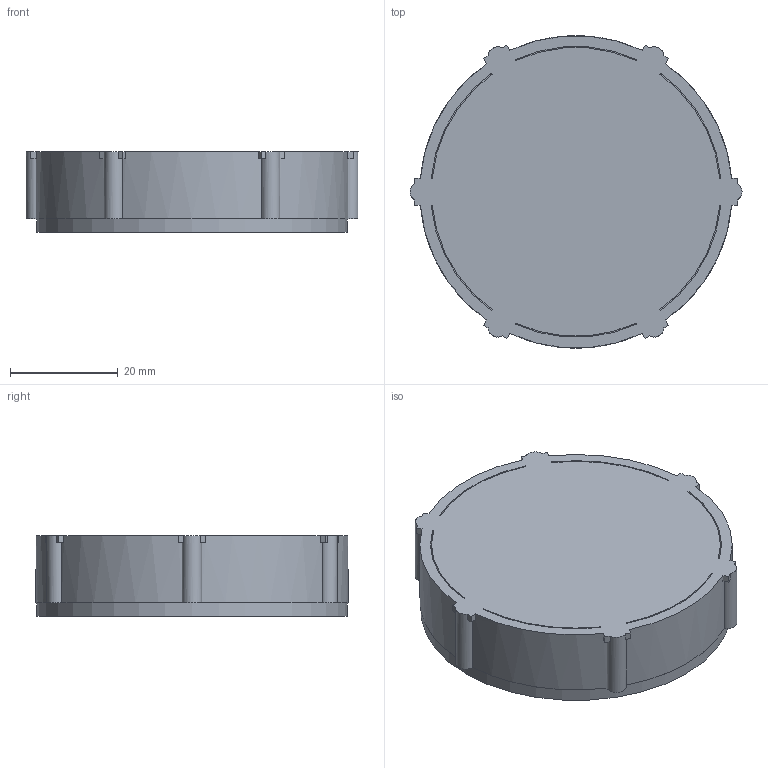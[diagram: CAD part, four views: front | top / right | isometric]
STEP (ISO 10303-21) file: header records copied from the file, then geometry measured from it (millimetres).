
FILE_DESCRIPTION(('Open CASCADE Model'),'2;1');
FILE_NAME('Open CASCADE Shape Model','2026-11-13T04:59:59',('Author'),( 'Open CASCADE'),'Open CASCADE STEP processor 7.9','Open CASCADE 7.9' ,'Unknown');
FILE_SCHEMA(('AUTOMOTIVE_DESIGN { 1 0 10303 214 1 1 1 1 }'));
Length unit declared in the file: millimetre
Products named in the file (1): Open CASCADE STEP translator 7.9 3
Bounding box: 61.6 x 58 x 15 mm (x, y, z)
Volume: 12033.7 mm3; surface area: 11099.2 mm2
Topology: 1 solids, 1 shells, 100 faces, 261 edges, 174 vertices
Faces by surface type: plane 69, cylinder 31
Full cylindrical faces by diameter (mm): 50 x1, 51.95 x1, 57.6 x1
Entity records: 6460 total; most frequent: CARTESIAN_POINT 1416, DIRECTION 893, ORIENTED_EDGE 522, PCURVE 522, DEFINITIONAL_REPRESENTATION 522, LINE 469, VECTOR 469, EDGE_CURVE 261
